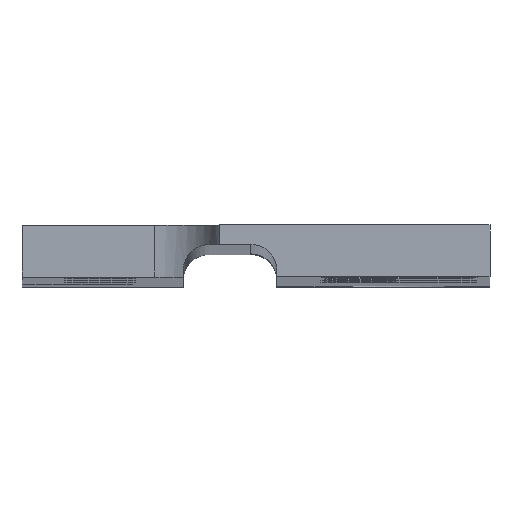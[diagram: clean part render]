
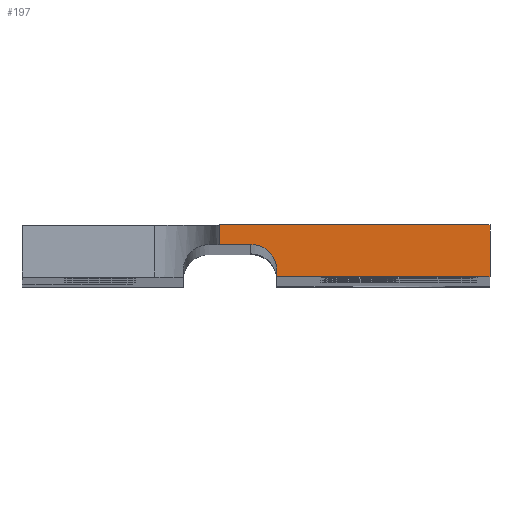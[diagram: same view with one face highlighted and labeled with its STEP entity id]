
A CAD part, top view. The second image highlights one B-rep face of the part: STEP entity #197.
In plain terms, the highlighted planar face has unit normal (0, 0, 1).
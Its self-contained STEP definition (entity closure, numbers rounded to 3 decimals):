
#152=PLANE('',#1090);
#197=ADVANCED_FACE('',(#249),#152,.T.);
#249=FACE_OUTER_BOUND('',#344,.T.);
#344=EDGE_LOOP('',(#682,#683,#684,#685,#686,#687,#688));
#365=LINE('',#1401,#425);
#368=LINE('',#1429,#428);
#371=LINE('',#1435,#431);
#393=LINE('',#1518,#453);
#413=LINE('',#1634,#473);
#418=LINE('',#1648,#478);
#425=VECTOR('',#1115,1.);
#428=VECTOR('',#1142,1.);
#431=VECTOR('',#1147,1.);
#453=VECTOR('',#1205,1.);
#473=VECTOR('',#1341,1.);
#478=VECTOR('',#1358,1.);
#682=ORIENTED_EDGE('',*,*,#927,.T.);
#683=ORIENTED_EDGE('',*,*,#835,.F.);
#684=ORIENTED_EDGE('',*,*,#814,.F.);
#685=ORIENTED_EDGE('',*,*,#818,.F.);
#686=ORIENTED_EDGE('',*,*,#832,.F.);
#687=ORIENTED_EDGE('',*,*,#920,.F.);
#688=ORIENTED_EDGE('',*,*,#868,.F.);
#723=VERTEX_POINT('',#1392);
#724=VERTEX_POINT('',#1394);
#726=VERTEX_POINT('',#1400);
#739=VERTEX_POINT('',#1428);
#742=VERTEX_POINT('',#1436);
#768=VERTEX_POINT('',#1517);
#769=VERTEX_POINT('',#1519);
#814=EDGE_CURVE('',#723,#724,#933,.T.);
#818=EDGE_CURVE('',#726,#723,#365,.T.);
#832=EDGE_CURVE('',#739,#726,#368,.T.);
#835=EDGE_CURVE('',#724,#742,#371,.T.);
#868=EDGE_CURVE('',#768,#769,#393,.T.);
#920=EDGE_CURVE('',#769,#739,#413,.T.);
#927=EDGE_CURVE('',#768,#742,#418,.T.);
#933=CIRCLE('',#993,1.);
#993=AXIS2_PLACEMENT_3D('',#1393,#1108,#1109);
#1090=AXIS2_PLACEMENT_3D('',#1649,#1359,#1360);
#1108=DIRECTION('',(0.,0.,1.));
#1109=DIRECTION('',(1.,0.,0.));
#1115=DIRECTION('',(0.,1.,0.));
#1142=DIRECTION('',(-1.,0.,0.));
#1147=DIRECTION('',(-1.,0.,0.));
#1205=DIRECTION('',(1.,0.,0.));
#1341=DIRECTION('',(0.,-1.,0.));
#1358=DIRECTION('',(0.,-1.,0.));
#1359=DIRECTION('',(0.,0.,1.));
#1360=DIRECTION('',(0.,1.,0.));
#1392=CARTESIAN_POINT('',(35.3,18.35,226.55));
#1393=CARTESIAN_POINT('',(34.3,18.35,226.55));
#1394=CARTESIAN_POINT('',(34.3,19.35,226.55));
#1400=CARTESIAN_POINT('',(35.3,18.1,226.55));
#1401=CARTESIAN_POINT('',(35.3,18.1,226.55));
#1428=CARTESIAN_POINT('',(43.5,18.1,226.55));
#1429=CARTESIAN_POINT('',(43.5,18.1,226.55));
#1435=CARTESIAN_POINT('',(34.3,19.35,226.55));
#1436=CARTESIAN_POINT('',(33.1,19.35,226.55));
#1517=CARTESIAN_POINT('',(33.1,20.1,226.55));
#1518=CARTESIAN_POINT('',(23.5,20.1,226.55));
#1519=CARTESIAN_POINT('',(43.5,20.1,226.55));
#1634=CARTESIAN_POINT('',(43.5,20.1,226.55));
#1648=CARTESIAN_POINT('',(33.1,17.1,226.55));
#1649=CARTESIAN_POINT('',(34.5,0.257,226.55));
